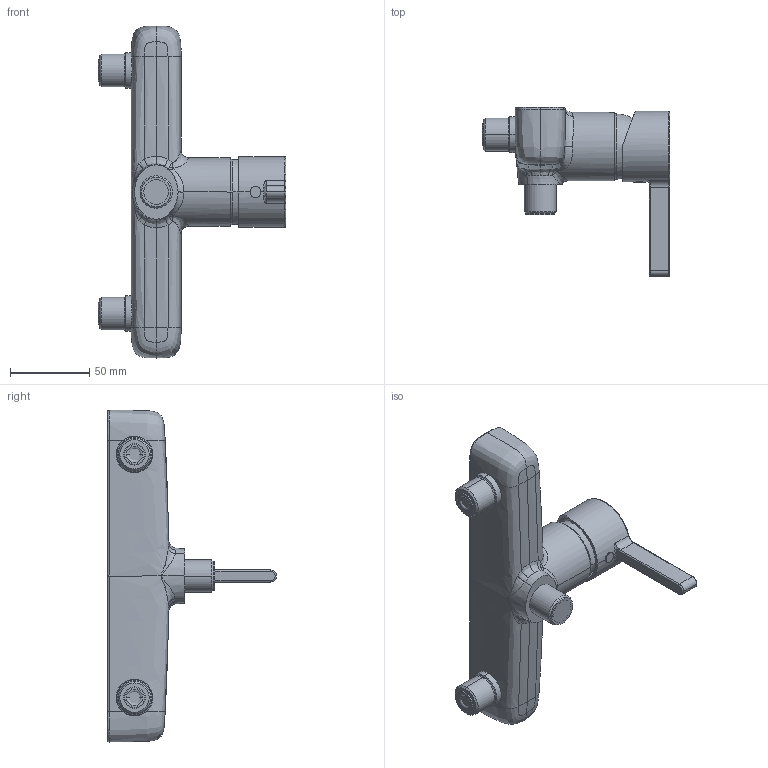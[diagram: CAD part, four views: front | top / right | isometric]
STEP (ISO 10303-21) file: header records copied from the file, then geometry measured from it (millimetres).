
FILE_DESCRIPTION((''),'2;1');
FILE_NAME('FIT-SHOWER-153_SW0001','2021-07-23T11:10:52',('KS894'),(''),'CREO PARAMETRIC BY PTC INC, 2018500','CREO PARAMETRIC BY PTC INC, 2018500','');
FILE_SCHEMA(('CONFIG_CONTROL_DESIGN'));
Length unit declared in the file: millimetre
Products named in the file (1): FIT-SHOWER-153_SW0001
Bounding box: 117.89 x 106.16 x 208.88 mm (x, y, z)
Volume: 338346.9 mm3; surface area: 56652.1 mm2
Topology: 1 solids, 4 shells, 471 faces, 1162 edges, 682 vertices
Faces by surface type: cylinder 144, plane 95, torus 90, bspline 82, sphere 32, cone 28
Entity records: 25009 total; most frequent: CARTESIAN_POINT 14306, DIRECTION 2276, ORIENTED_EDGE 2260, EDGE_CURVE 1130, AXIS2_PLACEMENT_3D 972, VERTEX_POINT 682, CIRCLE 582, EDGE_LOOP 490
